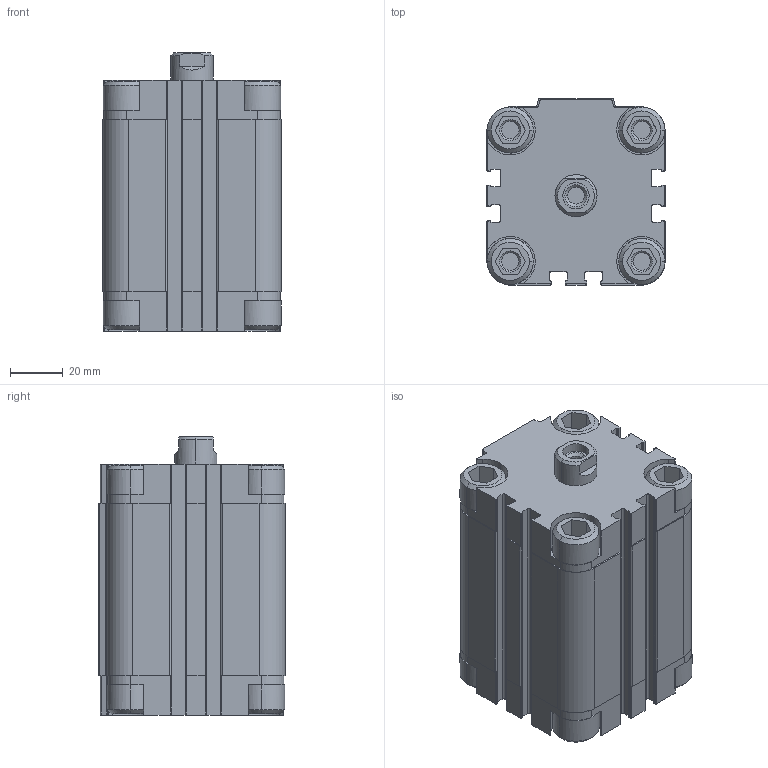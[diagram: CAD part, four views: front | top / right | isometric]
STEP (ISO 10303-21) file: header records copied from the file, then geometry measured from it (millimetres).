
FILE_DESCRIPTION (( 'STEP AP203' ), '1' );
FILE_NAME ('QF0500050A.step', '2012-10-18T17:05:59', ( '' ), ( '' ), 'SwSTEP 2.0', 'SolidWorks 2012', '' );
FILE_SCHEMA (( 'CONFIG_CONTROL_DESIGN' ));
Length unit declared in the file: millimetre
Products named in the file (1): QF0500050A
Bounding box: 68 x 71 x 105.8 mm (x, y, z)
Volume: 405514.1 mm3; surface area: 51921.5 mm2
Topology: 1 solids, 1 shells, 559 faces, 1516 edges, 977 vertices
Faces by surface type: plane 304, cylinder 202, cone 53
Entity records: 17964 total; most frequent: CARTESIAN_POINT 3443, DIRECTION 3107, ORIENTED_EDGE 3024, EDGE_CURVE 1512, AXIS2_PLACEMENT_3D 1077, VERTEX_POINT 977, LINE 953, VECTOR 953
